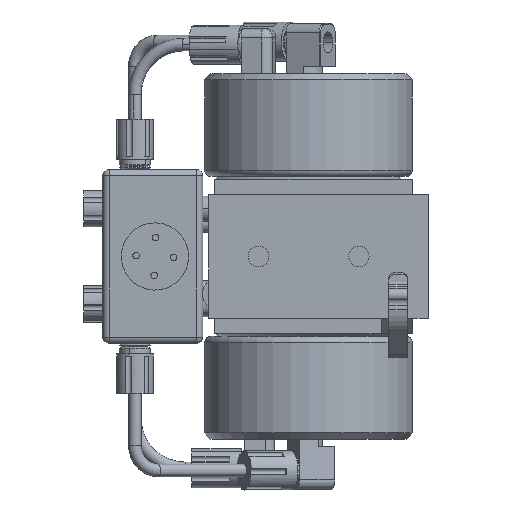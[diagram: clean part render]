
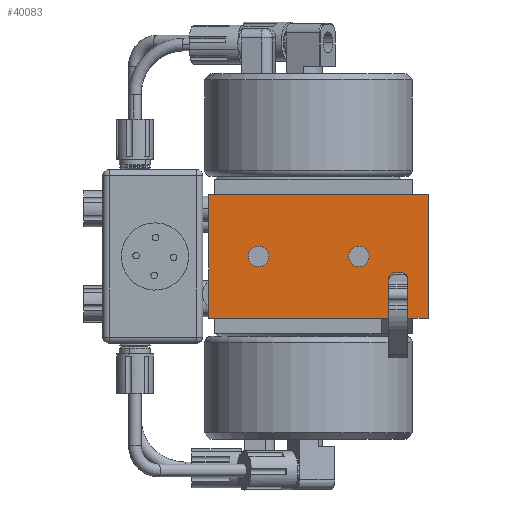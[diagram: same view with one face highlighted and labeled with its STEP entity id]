
A CAD part, front view. The second image highlights one B-rep face of the part: STEP entity #40083.
In plain terms, the highlighted planar face has unit normal (0, -1, 0).
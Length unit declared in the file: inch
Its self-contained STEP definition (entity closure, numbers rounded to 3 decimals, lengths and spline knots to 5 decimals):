
#325 = VERTEX_POINT ( 'NONE', #2228 ) ;
#442 = VERTEX_POINT ( 'NONE', #2500 ) ;
#1192 = EDGE_CURVE ( 'NONE', #40300, #1568, #9882, .T. ) ;
#1193 = EDGE_CURVE ( 'NONE', #40300, #1658, #9872, .T. ) ;
#1525 = VERTEX_POINT ( 'NONE', #23775 ) ;
#1568 = VERTEX_POINT ( 'NONE', #23818 ) ;
#1658 = VERTEX_POINT ( 'NONE', #23908 ) ;
#2228 = CARTESIAN_POINT ( 'NONE',  ( 1.972, -2.493, -1.23 ) ) ;
#2500 = CARTESIAN_POINT ( 'NONE',  ( -0.996, -2.493, 0.203 ) ) ;
#5869 = CARTESIAN_POINT ( 'NONE',  ( 1.004, -2.493, 0.203 ) ) ;
#6042 = CARTESIAN_POINT ( 'NONE',  ( 1.596, -2.493, -1.23 ) ) ;
#9184 = CIRCLE ( 'NONE', #19367, 0.203 ) ;
#9382 = CIRCLE ( 'NONE', #19464, 0.203 ) ;
#9870 = VECTOR ( 'NONE', #40501, 39.37008 ) ;
#9872 = LINE ( 'NONE', #40698, #9877 ) ;
#9877 = VECTOR ( 'NONE', #40472, 39.37008 ) ;
#9882 = LINE ( 'NONE', #40686, #9870 ) ;
#10564 = CARTESIAN_POINT ( 'NONE',  ( -0.996, -2.493, 0. ) ) ;
#10566 = DIRECTION ( 'NONE',  ( 0., 1., 0. ) ) ;
#10568 = DIRECTION ( 'NONE',  ( 0., 0., 1. ) ) ;
#11370 = CARTESIAN_POINT ( 'NONE',  ( 1.004, -2.493, 0. ) ) ;
#11372 = DIRECTION ( 'NONE',  ( 0., 1., 0. ) ) ;
#11374 = DIRECTION ( 'NONE',  ( 0., 0., 1. ) ) ;
#11525 = CARTESIAN_POINT ( 'NONE',  ( 1.004, -2.493, -0.203 ) ) ;
#11816 = DIRECTION ( 'NONE',  ( 1., 0., 0. ) ) ;
#11823 = CARTESIAN_POINT ( 'NONE',  ( 1.721, -2.493, -0.324 ) ) ;
#11909 = CARTESIAN_POINT ( 'NONE',  ( 1.721, -2.493, -0.449 ) ) ;
#11910 = DIRECTION ( 'NONE',  ( 0., 1., 0. ) ) ;
#11911 = DIRECTION ( 'NONE',  ( 0., 0., 1. ) ) ;
#11970 = CARTESIAN_POINT ( 'NONE',  ( 1.004, -2.493, 0. ) ) ;
#11971 = DIRECTION ( 'NONE',  ( 0., 1., 0. ) ) ;
#11972 = DIRECTION ( 'NONE',  ( 0., 0., 1. ) ) ;
#12070 = CARTESIAN_POINT ( 'NONE',  ( 1.847, -2.493, -0.449 ) ) ;
#12071 = DIRECTION ( 'NONE',  ( 0., 1., 0. ) ) ;
#12072 = DIRECTION ( 'NONE',  ( 0., 0., 1. ) ) ;
#12085 = CARTESIAN_POINT ( 'NONE',  ( 1.596, -2.493, -1.23 ) ) ;
#12086 = DIRECTION ( 'NONE',  ( 0., 0., 1. ) ) ;
#12219 = CARTESIAN_POINT ( 'NONE',  ( -2.361, -2.493, -1.23 ) ) ;
#12220 = DIRECTION ( 'NONE',  ( -1., 0., 0. ) ) ;
#12221 = CARTESIAN_POINT ( 'NONE',  ( -0.996, -2.493, 0. ) ) ;
#12222 = DIRECTION ( 'NONE',  ( 0., 1., 0. ) ) ;
#12223 = DIRECTION ( 'NONE',  ( 0., 0., 1. ) ) ;
#12224 = CARTESIAN_POINT ( 'NONE',  ( 2.389, -2.493, 1.23 ) ) ;
#12225 = DIRECTION ( 'NONE',  ( 0., 0., -1. ) ) ;
#12279 = DIRECTION ( 'NONE',  ( -1., 0., 0. ) ) ;
#12285 = CARTESIAN_POINT ( 'NONE',  ( -2.361, -2.493, -1.23 ) ) ;
#12304 = CARTESIAN_POINT ( 'NONE',  ( 1.972, -2.493, -0.449 ) ) ;
#12305 = DIRECTION ( 'NONE',  ( 0., 0., -1. ) ) ;
#12357 = LINE ( 'NONE', #11823, #12362 ) ;
#12362 = VECTOR ( 'NONE', #11816, 39.37008 ) ;
#12416 = CIRCLE ( 'NONE', #19499, 0.125 ) ;
#12456 = CIRCLE ( 'NONE', #19518, 0.203 ) ;
#12512 = CIRCLE ( 'NONE', #19545, 0.125 ) ;
#12524 = LINE ( 'NONE', #12085, #12526 ) ;
#12526 = VECTOR ( 'NONE', #12086, 39.37008 ) ;
#12590 = CIRCLE ( 'NONE', #19595, 0.203 ) ;
#12592 = LINE ( 'NONE', #12224, #12595 ) ;
#12595 = VECTOR ( 'NONE', #12225, 39.37008 ) ;
#12598 = LINE ( 'NONE', #12219, #12600 ) ;
#12600 = VECTOR ( 'NONE', #12220, 39.37008 ) ;
#12634 = LINE ( 'NONE', #12285, #12636 ) ;
#12636 = VECTOR ( 'NONE', #12279, 39.37008 ) ;
#12645 = LINE ( 'NONE', #12304, #12647 ) ;
#12647 = VECTOR ( 'NONE', #12305, 39.37008 ) ;
#19367 = AXIS2_PLACEMENT_3D ( 'NONE', #10564, #10566, #10568 ) ;
#19464 = AXIS2_PLACEMENT_3D ( 'NONE', #11370, #11372, #11374 ) ;
#19499 = AXIS2_PLACEMENT_3D ( 'NONE', #11909, #11910, #11911 ) ;
#19518 = AXIS2_PLACEMENT_3D ( 'NONE', #11970, #11971, #11972 ) ;
#19545 = AXIS2_PLACEMENT_3D ( 'NONE', #12070, #12071, #12072 ) ;
#19595 = AXIS2_PLACEMENT_3D ( 'NONE', #12221, #12222, #12223 ) ;
#21833 = ORIENTED_EDGE ( 'NONE', *, *, #25454, .T. ) ;
#21852 = ORIENTED_EDGE ( 'NONE', *, *, #25757, .T. ) ;
#21860 = ORIENTED_EDGE ( 'NONE', *, *, #1192, .T. ) ;
#21862 = ORIENTED_EDGE ( 'NONE', *, *, #31261, .T. ) ;
#21872 = ORIENTED_EDGE ( 'NONE', *, *, #31388, .T. ) ;
#21880 = ORIENTED_EDGE ( 'NONE', *, *, #31325, .T. ) ;
#21882 = ORIENTED_EDGE ( 'NONE', *, *, #31393, .F. ) ;
#23775 = CARTESIAN_POINT ( 'NONE',  ( 1.596, -2.493, -0.449 ) ) ;
#23818 = CARTESIAN_POINT ( 'NONE',  ( -1.986, -2.493, -1.23 ) ) ;
#23908 = CARTESIAN_POINT ( 'NONE',  ( 2.389, -2.493, 1.23 ) ) ;
#25454 = EDGE_CURVE ( 'NONE', #39666, #442, #9184, .T. ) ;
#25757 = EDGE_CURVE ( 'NONE', #26723, #48851, #9382, .T. ) ;
#26723 = VERTEX_POINT ( 'NONE', #11525 ) ;
#30228 = CARTESIAN_POINT ( 'NONE',  ( -0.996, -2.493, -0.203 ) ) ;
#31175 = EDGE_CURVE ( 'NONE', #40290, #40912, #12357, .T. ) ;
#31223 = EDGE_CURVE ( 'NONE', #1525, #40290, #12416, .T. ) ;
#31261 = EDGE_CURVE ( 'NONE', #48851, #26723, #12456, .T. ) ;
#31312 = EDGE_CURVE ( 'NONE', #40912, #40235, #12512, .T. ) ;
#31325 = EDGE_CURVE ( 'NONE', #49024, #1525, #12524, .T. ) ;
#31388 = EDGE_CURVE ( 'NONE', #442, #39666, #12590, .T. ) ;
#31390 = EDGE_CURVE ( 'NONE', #1658, #40768, #12592, .T. ) ;
#31393 = EDGE_CURVE ( 'NONE', #49024, #1568, #12598, .T. ) ;
#31417 = EDGE_CURVE ( 'NONE', #40768, #325, #12634, .T. ) ;
#31425 = EDGE_CURVE ( 'NONE', #40235, #325, #12645, .T. ) ;
#32182 = AXIS2_PLACEMENT_3D ( 'NONE', #34122, #34123, #34124 ) ;
#34094 = PLANE ( 'NONE',  #32182 ) ;
#34122 = CARTESIAN_POINT ( 'NONE',  ( -2.361, -2.493, 1.23 ) ) ;
#34123 = DIRECTION ( 'NONE',  ( 0., -1., 0. ) ) ;
#34124 = DIRECTION ( 'NONE',  ( 0., 0., -1. ) ) ;
#34710 = CARTESIAN_POINT ( 'NONE',  ( 1.972, -2.493, -0.449 ) ) ;
#35072 = FACE_OUTER_BOUND ( 'NONE', #39475, .T. ) ;
#35074 = FACE_BOUND ( 'NONE', #39336, .T. ) ;
#35076 = FACE_BOUND ( 'NONE', #39495, .T. ) ;
#36040 = CARTESIAN_POINT ( 'NONE',  ( 1.721, -2.493, -0.324 ) ) ;
#36042 = CARTESIAN_POINT ( 'NONE',  ( -1.986, -2.493, 1.23 ) ) ;
#36103 = CARTESIAN_POINT ( 'NONE',  ( 2.389, -2.493, -1.23 ) ) ;
#36217 = CARTESIAN_POINT ( 'NONE',  ( 1.847, -2.493, -0.324 ) ) ;
#38547 = ORIENTED_EDGE ( 'NONE', *, *, #31417, .F. ) ;
#38583 = ORIENTED_EDGE ( 'NONE', *, *, #31175, .T. ) ;
#38621 = ORIENTED_EDGE ( 'NONE', *, *, #31390, .F. ) ;
#38639 = ORIENTED_EDGE ( 'NONE', *, *, #31312, .T. ) ;
#38663 = ORIENTED_EDGE ( 'NONE', *, *, #1193, .F. ) ;
#38709 = ORIENTED_EDGE ( 'NONE', *, *, #31223, .T. ) ;
#38739 = ORIENTED_EDGE ( 'NONE', *, *, #31425, .T. ) ;
#39336 = EDGE_LOOP ( 'NONE', ( #21872, #21833 ) ) ;
#39475 = EDGE_LOOP ( 'NONE', ( #21860, #21882, #21880, #38709, #38583, #38639, #38739, #38547, #38621, #38663 ) ) ;
#39495 = EDGE_LOOP ( 'NONE', ( #21862, #21852 ) ) ;
#39666 = VERTEX_POINT ( 'NONE', #30228 ) ;
#40083 = ADVANCED_FACE ( 'NONE', ( #35076, #35074, #35072 ), #34094, .T. ) ;
#40235 = VERTEX_POINT ( 'NONE', #34710 ) ;
#40290 = VERTEX_POINT ( 'NONE', #36040 ) ;
#40300 = VERTEX_POINT ( 'NONE', #36042 ) ;
#40472 = DIRECTION ( 'NONE',  ( 1., 0., 0. ) ) ;
#40501 = DIRECTION ( 'NONE',  ( 0., 0., -1. ) ) ;
#40686 = CARTESIAN_POINT ( 'NONE',  ( -1.986, -2.493, -1.23 ) ) ;
#40698 = CARTESIAN_POINT ( 'NONE',  ( -2.361, -2.493, 1.23 ) ) ;
#40768 = VERTEX_POINT ( 'NONE', #36103 ) ;
#40912 = VERTEX_POINT ( 'NONE', #36217 ) ;
#48851 = VERTEX_POINT ( 'NONE', #5869 ) ;
#49024 = VERTEX_POINT ( 'NONE', #6042 ) ;
